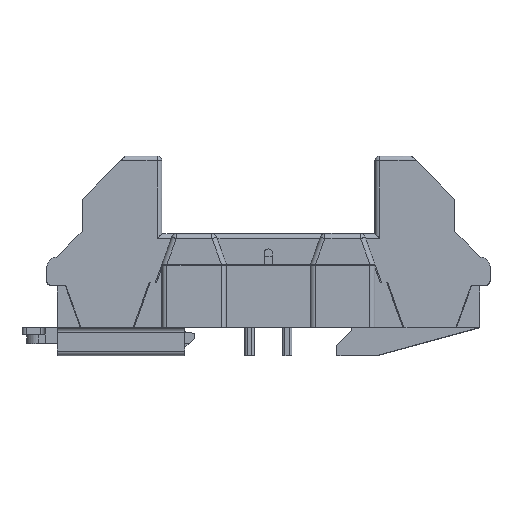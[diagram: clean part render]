
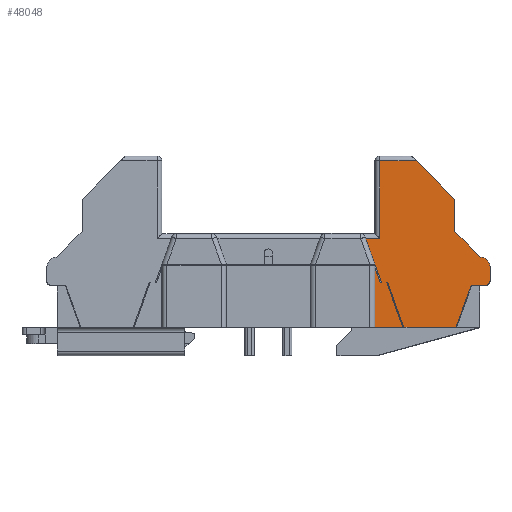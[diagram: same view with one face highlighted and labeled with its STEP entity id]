
A CAD part, top view. The second image highlights one B-rep face of the part: STEP entity #48048.
In plain terms, the highlighted planar face has unit normal (0, 0, 1).
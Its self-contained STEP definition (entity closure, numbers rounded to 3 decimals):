
#42459=CARTESIAN_POINT('',(39.7,10.9,22.9));
#42460=VERTEX_POINT('',#42459);
#42461=CARTESIAN_POINT('',(45.2,5.4,22.9));
#42462=VERTEX_POINT('',#42461);
#42463=CARTESIAN_POINT('',(39.7,10.9,22.9));
#42464=DIRECTION('',(0.707,-0.707,0.));
#42465=VECTOR('',#42464,7.778);
#42466=LINE('',#42463,#42465);
#42467=EDGE_CURVE('',#42460,#42462,#42466,.T.);
#42508=CARTESIAN_POINT('',(39.7,17.8,22.9));
#42509=VERTEX_POINT('',#42508);
#42516=CARTESIAN_POINT('',(39.7,10.9,22.9));
#42517=DIRECTION('',(0.0,1.0,0.0));
#42518=VECTOR('',#42517,6.9);
#42519=LINE('',#42516,#42518);
#42520=EDGE_CURVE('',#42460,#42509,#42519,.T.);
#44762=CARTESIAN_POINT('',(39.929,-9.5,22.9));
#44763=VERTEX_POINT('',#44762);
#44770=CARTESIAN_POINT('',(28.871,-9.5,22.9));
#44771=VERTEX_POINT('',#44770);
#44772=CARTESIAN_POINT('',(28.871,-9.5,22.9));
#44773=DIRECTION('',(1.0,0.0,0.0));
#44774=VECTOR('',#44773,11.058);
#44775=LINE('',#44772,#44774);
#44776=EDGE_CURVE('',#44771,#44763,#44775,.T.);
#44799=CARTESIAN_POINT('',(25.4,0.,22.9));
#44800=VERTEX_POINT('',#44799);
#44801=CARTESIAN_POINT('',(25.4,0.,22.9));
#44802=DIRECTION('',(0.343,-0.939,0.0));
#44803=VECTOR('',#44802,10.114);
#44804=LINE('',#44801,#44803);
#44805=EDGE_CURVE('',#44800,#44771,#44804,.T.);
#45228=CARTESIAN_POINT('',(31.5,26.,22.9));
#45229=VERTEX_POINT('',#45228);
#45237=CARTESIAN_POINT('',(39.7,17.8,22.9));
#45238=DIRECTION('',(-0.707,0.707,0.0));
#45239=VECTOR('',#45238,11.597);
#45240=LINE('',#45237,#45239);
#45241=EDGE_CURVE('',#42509,#45229,#45240,.T.);
#45340=CARTESIAN_POINT('',(23.7,26.,22.9));
#45341=VERTEX_POINT('',#45340);
#45349=CARTESIAN_POINT('',(23.7,26.,22.9));
#45350=DIRECTION('',(1.0,0.0,0.0));
#45351=VECTOR('',#45350,7.8);
#45352=LINE('',#45349,#45351);
#45353=EDGE_CURVE('',#45341,#45229,#45352,.T.);
#45363=CARTESIAN_POINT('',(23.7,9.4,22.9));
#45364=VERTEX_POINT('',#45363);
#45365=CARTESIAN_POINT('',(23.7,9.4,22.9));
#45366=DIRECTION('',(0.0,1.0,0.0));
#45367=VECTOR('',#45366,16.6);
#45368=LINE('',#45365,#45367);
#45369=EDGE_CURVE('',#45364,#45341,#45368,.T.);
#45915=CARTESIAN_POINT('',(24.125,0.,22.9));
#45916=VERTEX_POINT('',#45915);
#45923=CARTESIAN_POINT('',(22.7,3.9,22.9));
#45924=VERTEX_POINT('',#45923);
#45925=CARTESIAN_POINT('',(22.7,3.9,22.9));
#45926=DIRECTION('',(0.343,-0.939,0.));
#45927=VECTOR('',#45926,4.152);
#45928=LINE('',#45925,#45927);
#45929=EDGE_CURVE('',#45924,#45916,#45928,.T.);
#47922=CARTESIAN_POINT('',(20.69,9.4,22.9));
#47923=VERTEX_POINT('',#47922);
#47924=CARTESIAN_POINT('',(20.69,9.4,22.9));
#47925=DIRECTION('',(0.343,-0.939,0.0));
#47926=VECTOR('',#47925,5.856);
#47927=LINE('',#47924,#47926);
#47928=EDGE_CURVE('',#47923,#45924,#47927,.T.);
#47940=CARTESIAN_POINT('',(31.,25.65,22.9));
#47941=DIRECTION('',(0.0,0.0,1.0));
#47942=DIRECTION('',(1.0,0.0,0.0));
#47943=AXIS2_PLACEMENT_3D('',#47940,#47941,#47942);
#47944=PLANE('',#47943);
#47945=CARTESIAN_POINT('',(47.2,0.4,22.9));
#47946=VERTEX_POINT('',#47945);
#47947=CARTESIAN_POINT('',(46.2,-0.6,22.9));
#47948=VERTEX_POINT('',#47947);
#47949=CARTESIAN_POINT('',(46.2,0.4,22.9));
#47950=DIRECTION('',(0.,0.,-1.0));
#47951=DIRECTION('',(0.707,-0.707,0.));
#47952=AXIS2_PLACEMENT_3D('',#47949,#47950,#47951);
#47953=CIRCLE('',#47952,1.0);
#47954=EDGE_CURVE('',#47946,#47948,#47953,.T.);
#47955=ORIENTED_EDGE('',*,*,#47954,.F.);
#47956=CARTESIAN_POINT('',(47.2,3.4,22.9));
#47957=VERTEX_POINT('',#47956);
#47958=CARTESIAN_POINT('',(47.2,3.4,22.9));
#47959=DIRECTION('',(0.0,-1.0,0.0));
#47960=VECTOR('',#47959,3.);
#47961=LINE('',#47958,#47960);
#47962=EDGE_CURVE('',#47957,#47946,#47961,.T.);
#47963=ORIENTED_EDGE('',*,*,#47962,.F.);
#47964=CARTESIAN_POINT('',(45.2,3.4,22.9));
#47965=DIRECTION('',(0.0,0.0,-1.0));
#47966=DIRECTION('',(0.707,0.707,0.0));
#47967=AXIS2_PLACEMENT_3D('',#47964,#47965,#47966);
#47968=CIRCLE('',#47967,2.0);
#47969=EDGE_CURVE('',#42462,#47957,#47968,.T.);
#47970=ORIENTED_EDGE('',*,*,#47969,.F.);
#47971=ORIENTED_EDGE('',*,*,#42467,.F.);
#47972=ORIENTED_EDGE('',*,*,#42520,.T.);
#47973=ORIENTED_EDGE('',*,*,#45241,.T.);
#47974=ORIENTED_EDGE('',*,*,#45353,.F.);
#47975=ORIENTED_EDGE('',*,*,#45369,.F.);
#47976=CARTESIAN_POINT('',(20.69,9.4,22.9));
#47977=DIRECTION('',(1.0,0.0,0.0));
#47978=VECTOR('',#47977,3.01);
#47979=LINE('',#47976,#47978);
#47980=EDGE_CURVE('',#47923,#45364,#47979,.T.);
#47981=ORIENTED_EDGE('',*,*,#47980,.F.);
#47982=ORIENTED_EDGE('',*,*,#47928,.T.);
#47983=ORIENTED_EDGE('',*,*,#45929,.T.);
#47984=CARTESIAN_POINT('',(23.832,0.,22.9));
#47985=VERTEX_POINT('',#47984);
#47986=CARTESIAN_POINT('',(23.832,0.,22.9));
#47987=DIRECTION('',(1.0,0.0,0.0));
#47988=VECTOR('',#47987,0.293);
#47989=LINE('',#47986,#47988);
#47990=EDGE_CURVE('',#47985,#45916,#47989,.T.);
#47991=ORIENTED_EDGE('',*,*,#47990,.F.);
#47992=CARTESIAN_POINT('',(22.7,3.144,22.9));
#47993=VERTEX_POINT('',#47992);
#47994=CARTESIAN_POINT('',(23.832,0.,22.9));
#47995=DIRECTION('',(-0.339,0.941,0.0));
#47996=VECTOR('',#47995,3.342);
#47997=LINE('',#47994,#47996);
#47998=EDGE_CURVE('',#47985,#47993,#47997,.T.);
#47999=ORIENTED_EDGE('',*,*,#47998,.T.);
#48000=CARTESIAN_POINT('',(22.7,-9.53,22.9));
#48001=VERTEX_POINT('',#48000);
#48002=CARTESIAN_POINT('',(22.7,3.144,22.9));
#48003=DIRECTION('',(0.0,-1.0,0.0));
#48004=VECTOR('',#48003,12.674);
#48005=LINE('',#48002,#48004);
#48006=EDGE_CURVE('',#47993,#48001,#48005,.T.);
#48007=ORIENTED_EDGE('',*,*,#48006,.T.);
#48008=CARTESIAN_POINT('',(28.631,-9.53,22.9));
#48009=VERTEX_POINT('',#48008);
#48010=CARTESIAN_POINT('',(28.631,-9.53,22.9));
#48011=DIRECTION('',(-1.0,0.0,0.0));
#48012=VECTOR('',#48011,5.931);
#48013=LINE('',#48010,#48012);
#48014=EDGE_CURVE('',#48009,#48001,#48013,.T.);
#48015=ORIENTED_EDGE('',*,*,#48014,.F.);
#48016=CARTESIAN_POINT('',(25.2,0.,22.9));
#48017=VERTEX_POINT('',#48016);
#48018=CARTESIAN_POINT('',(28.631,-9.53,22.9));
#48019=DIRECTION('',(-0.339,0.941,0.0));
#48020=VECTOR('',#48019,10.129);
#48021=LINE('',#48018,#48020);
#48022=EDGE_CURVE('',#48009,#48017,#48021,.T.);
#48023=ORIENTED_EDGE('',*,*,#48022,.T.);
#48024=CARTESIAN_POINT('',(25.2,0.,22.9));
#48025=DIRECTION('',(1.0,0.0,0.0));
#48026=VECTOR('',#48025,0.2);
#48027=LINE('',#48024,#48026);
#48028=EDGE_CURVE('',#48017,#44800,#48027,.T.);
#48029=ORIENTED_EDGE('',*,*,#48028,.T.);
#48030=ORIENTED_EDGE('',*,*,#44805,.T.);
#48031=ORIENTED_EDGE('',*,*,#44776,.T.);
#48032=CARTESIAN_POINT('',(43.181,-0.6,22.9));
#48033=VERTEX_POINT('',#48032);
#48034=CARTESIAN_POINT('',(39.929,-9.5,22.9));
#48035=DIRECTION('',(0.343,0.939,0.0));
#48036=VECTOR('',#48035,9.475);
#48037=LINE('',#48034,#48036);
#48038=EDGE_CURVE('',#44763,#48033,#48037,.T.);
#48039=ORIENTED_EDGE('',*,*,#48038,.T.);
#48040=CARTESIAN_POINT('',(46.2,-0.6,22.9));
#48041=DIRECTION('',(-1.0,0.0,0.0));
#48042=VECTOR('',#48041,3.019);
#48043=LINE('',#48040,#48042);
#48044=EDGE_CURVE('',#47948,#48033,#48043,.T.);
#48045=ORIENTED_EDGE('',*,*,#48044,.F.);
#48046=EDGE_LOOP('',(#47955,#47963,#47970,#47971,#47972,#47973,#47974,#47975,#47981,#47982,#47983,#47991,#47999,#48007,#48015,#48023,#48029,#48030,#48031,#48039,#48045));
#48047=FACE_OUTER_BOUND('',#48046,.T.);
#48048=ADVANCED_FACE('',(#48047),#47944,.T.);
